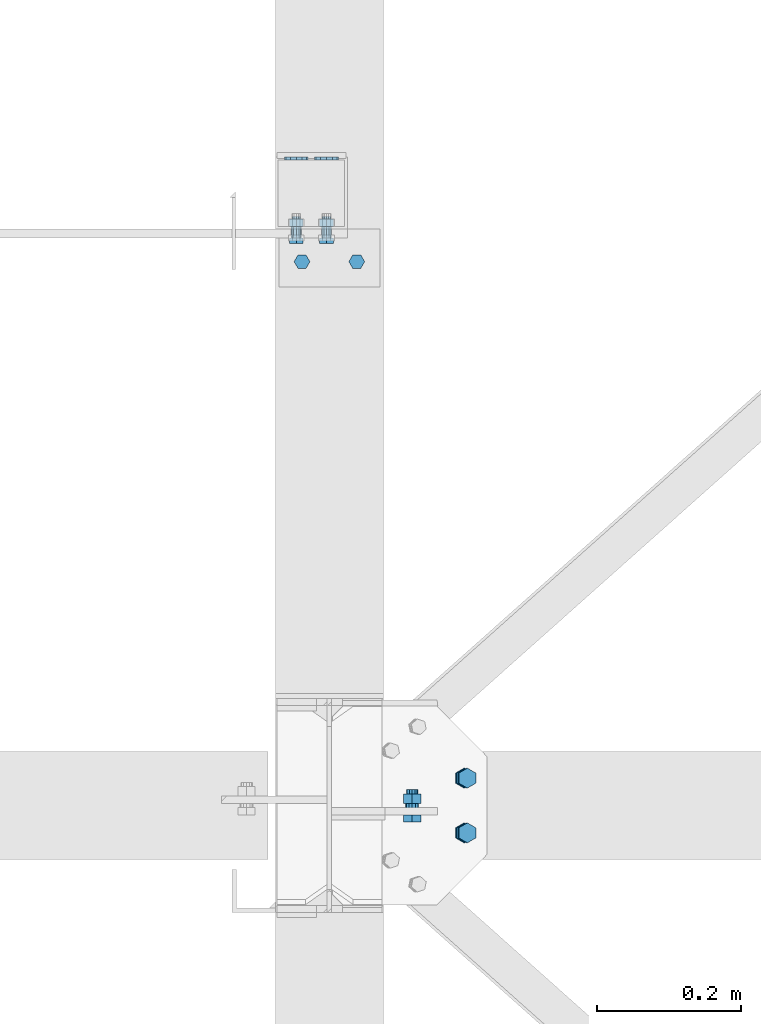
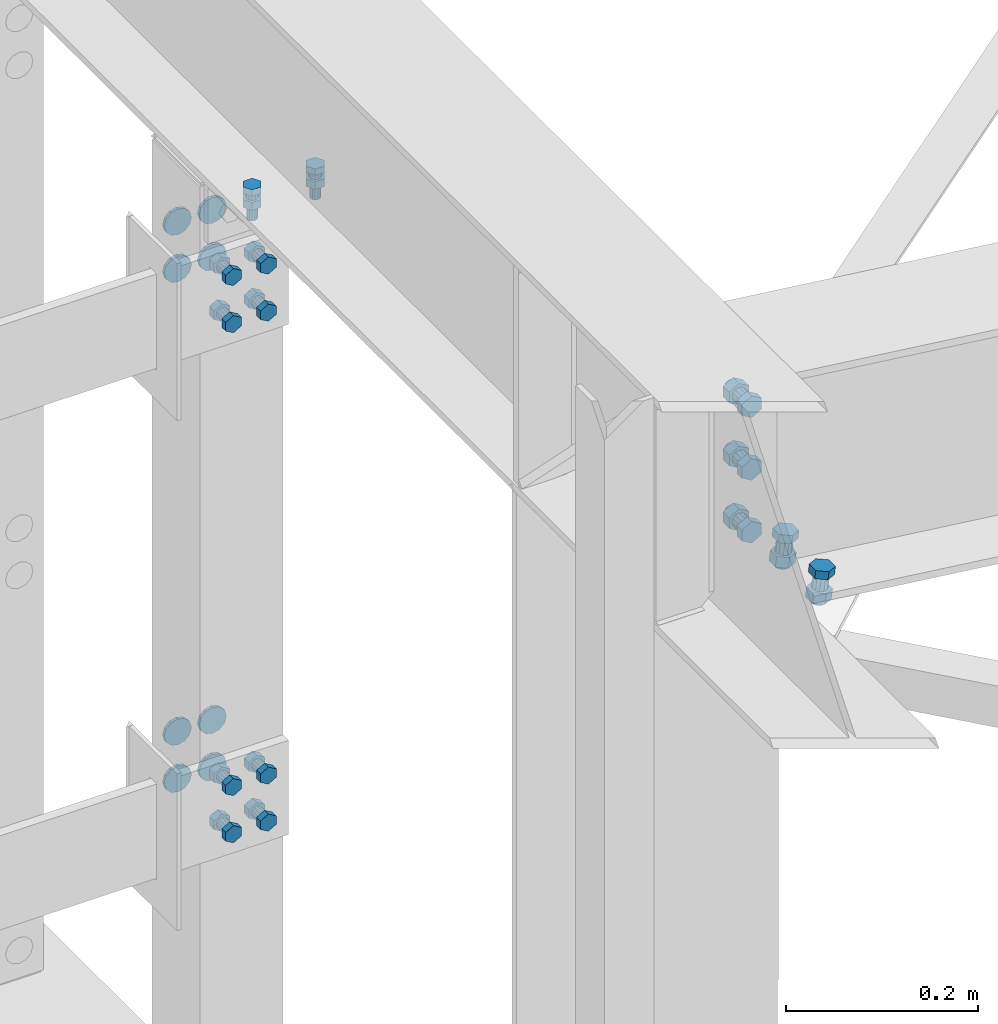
# One storey, part 140 of 3134: 7 mechanical fasteners, 3 elements without a shape of their own.
"""IFC2X3 building model written with IfcOpenShell, lengths in millimetres."""

from ifc_helpers import new_model, si_unit, frame, origin_with_axes, place, context, subcontext, project, spatial, faceted_brep, source, transform, mapped, material, type_object, element, aggregate, save


model = new_model("IFC2X3")

# Units and contexts
model_context = context("Model", 3, precision=1e-05, world=origin_with_axes())
body_context = subcontext(model_context, "Body", "Model", "MODEL_VIEW")
ifc_project = project(units=[si_unit("LENGTHUNIT", "METRE", prefix="MILLI"), si_unit("AREAUNIT", "SQUARE_METRE"), si_unit("VOLUMEUNIT", "CUBIC_METRE"), si_unit("MASSUNIT", "GRAM", prefix="KILO"), si_unit("TIMEUNIT", "SECOND"), si_unit("PLANEANGLEUNIT", "RADIAN"), si_unit("SOLIDANGLEUNIT", "STERADIAN"), si_unit("THERMODYNAMICTEMPERATUREUNIT", "DEGREE_CELSIUS"), si_unit("LUMINOUSINTENSITYUNIT", "LUMEN")], contexts=[model_context])

# Site, building, storey
site_placement = place(None, origin_with_axes())
site = spatial("IfcSite", under=ifc_project, at=site_placement, CompositionType="ELEMENT")
building_placement = place(site_placement, origin_with_axes())
building = spatial("IfcBuilding", under=site, at=building_placement, Name="Undefined", CompositionType="ELEMENT")
storey_placement = place(building_placement, origin_with_axes())
storey = spatial("IfcBuildingStorey", under=building, at=storey_placement, Name="Undefined", CompositionType="ELEMENT", Elevation=0.0)

# Assembly, mechanical fastener
assembly_1_placement = place(storey_placement, origin_with_axes())
assembly_1 = element("IfcElementAssembly", 1, at=assembly_1_placement, inside=storey, AssemblyPlace="NOTDEFINED", PredefinedType="RIGID_FRAME")
ifc_material = material(Name="8.8")
mechanical_fastener_type = type_object("IfcMechanicalFastenerType", Name="Bolt assembly")
shared_shape_1 = source(origin_with_axes(), body_context, "Body", "Brep", [
    faceted_brep([(10.9696551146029, -8.0, 0.0), (5.48482755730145, -8.0, 9.5), (-5.48482755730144, -8.0, 9.5), (-10.9696551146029, -8.0, 1.34339530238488e-15), (-5.48482755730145, -8.0, -9.5), (5.48482755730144, -8.0, -9.50000000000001), (5.48482755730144, 0.0, -9.50000000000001), (-5.48482755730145, 0.0, -9.5), (-10.9696551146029, 0.0, 1.34339530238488e-15), (-5.48482755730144, 0.0, 9.5), (5.48482755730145, 0.0, 9.5), (10.9696551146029, 0.0, 0.0), (6.0, 0.0, 0.0), (5.19615242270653, 0.0, 3.00000000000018), (2.99999999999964, 0.0, 5.19615242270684), (-6.21801588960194e-13, 0.0, 6.0), (-3.00000000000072, 0.0, 5.19615242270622), (-5.19615242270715, 0.0, 2.9999999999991), (-6.0, 0.0, -1.24360317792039e-12), (-5.19615242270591, 0.0, -3.00000000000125), (-2.99999999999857, 0.0, -5.19615242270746), (1.85874342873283e-12, 0.0, -6.0), (3.00000000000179, 0.0, -5.1961524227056), (5.19615242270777, 0.0, -2.99999999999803), (5.19615242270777, 35.0, -2.99999999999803), (3.00000000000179, 35.0, -5.1961524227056), (1.85874342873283e-12, 35.0, -6.0), (-2.99999999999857, 35.0, -5.19615242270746), (-5.19615242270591, 35.0, -3.00000000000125), (-6.0, 35.0, -1.24360317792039e-12), (-5.19615242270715, 35.0, 2.9999999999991), (-3.00000000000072, 35.0, 5.19615242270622), (-6.21801588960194e-13, 35.0, 6.0), (2.99999999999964, 35.0, 5.19615242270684), (5.19615242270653, 35.0, 3.00000000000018), (6.0, 35.0, 0.0), (10.9696551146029, 8.0, 0.0), (5.48482755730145, 8.0, 9.5), (-5.48482755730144, 8.0, 9.5), (-10.9696551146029, 8.0, 1.34339530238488e-15), (-5.48482755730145, 8.0, -9.5), (5.48482755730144, 8.0, -9.50000000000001), (5.48482755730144, 18.0, -9.50000000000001), (-5.48482755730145, 18.0, -9.5), (-10.9696551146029, 18.0, 1.34339530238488e-15), (-5.48482755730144, 18.0, 9.5), (5.48482755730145, 18.0, 9.5), (10.9696551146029, 18.0, 0.0)], [[[0, 1, 2, 3, 4, 5]], [[6, 7, 8, 9, 10, 11]], [[0, 11, 10, 1]], [[1, 10, 9, 2]], [[2, 9, 8, 3]], [[3, 8, 7, 4]], [[4, 7, 6, 5]], [[5, 6, 11, 0]], [[12, 13, 14, 15, 16, 17, 18, 19, 20, 21, 22, 23]], [[24, 25, 26, 27, 28, 29, 30, 31, 32, 33, 34, 35]], [[12, 35, 34, 13]], [[13, 34, 33, 14]], [[14, 33, 32, 15]], [[15, 32, 31, 16]], [[16, 31, 30, 17]], [[17, 30, 29, 18]], [[18, 29, 28, 19]], [[19, 28, 27, 20]], [[20, 27, 26, 21]], [[21, 26, 25, 22]], [[22, 25, 24, 23]], [[23, 24, 35, 12]], [[36, 37, 38, 39, 40, 41]], [[42, 43, 44, 45, 46, 47]], [[36, 47, 46, 37]], [[37, 46, 45, 38]], [[38, 45, 44, 39]], [[39, 44, 43, 40]], [[40, 43, 42, 41]], [[41, 42, 47, 36]]]),
    faceted_brep([(7.0, 0.0, 0.0), (6.06217782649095, 0.0, 3.50000000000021), (3.49999999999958, 0.0, 6.06217782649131), (-7.25435187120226e-13, 0.0, 7.0), (-3.50000000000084, 0.0, 6.06217782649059), (-6.06217782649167, 0.0, 3.49999999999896), (-7.0, 0.0, -1.45087037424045e-12), (-6.06217782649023, 0.0, -3.50000000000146), (-3.49999999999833, 0.0, -6.06217782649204), (2.1685340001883e-12, 0.0, -7.0), (3.50000000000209, 0.0, -6.06217782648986), (6.0621778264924, 0.0, -3.4999999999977), (6.0621778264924, 8.1, -3.4999999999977), (3.50000000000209, 8.1, -6.06217782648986), (2.1685340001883e-12, 8.1, -7.0), (-3.49999999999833, 8.1, -6.06217782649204), (-6.06217782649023, 8.1, -3.50000000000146), (-7.0, 8.1, -1.45087037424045e-12), (-6.06217782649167, 8.1, 3.49999999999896), (-3.50000000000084, 8.1, 6.06217782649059), (-7.25435187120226e-13, 8.1, 7.0), (3.49999999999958, 8.1, 6.06217782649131), (6.06217782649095, 8.1, 3.50000000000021), (7.0, 8.1, 0.0)], [[[0, 1, 2, 3, 4, 5, 6, 7, 8, 9, 10, 11]], [[12, 13, 14, 15, 16, 17, 18, 19, 20, 21, 22, 23]], [[0, 23, 22, 1]], [[1, 22, 21, 2]], [[2, 21, 20, 3]], [[3, 20, 19, 4]], [[4, 19, 18, 5]], [[5, 18, 17, 6]], [[6, 17, 16, 7]], [[7, 16, 15, 8]], [[8, 15, 14, 9]], [[9, 14, 13, 10]], [[10, 13, 12, 11]], [[11, 12, 23, 0]]]),
])
mechanical_fastener_1_placement = place(assembly_1_placement, frame((32487.0, 25405.0, 5593.0), z_axis=(0.0, 1.0, 0.0), x_axis=(1.0, 0.0, 0.0)))
mechanical_fastener_1 = element("IfcMechanicalFastener", 2, at=mechanical_fastener_1_placement, type_object=mechanical_fastener_type, material=ifc_material, Name="Bolt assembly", NominalDiameter=12.0, NominalLength=35.0, context=body_context, shape_type="MappedRepresentation", body=[
    mapped(shared_shape_1, transform((0.0, 0.0, 0.0))),
    mapped(shared_shape_1, transform((76.0, 0.0, 0.0))),
])
aggregate(assembly_1, [mechanical_fastener_1])

# Assembly, mechanical fasteners
assembly_2_placement = place(storey_placement, origin_with_axes())
assembly_2 = element("IfcElementAssembly", 3, at=assembly_2_placement, inside=storey, AssemblyPlace="NOTDEFINED", PredefinedType="RIGID_FRAME")
shared_shape_2 = source(origin_with_axes(), body_context, "Body", "Brep", [
    faceted_brep([(16.5, -4.0, 0.0), (14.289419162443, -4.0, 8.25000000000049), (8.24999999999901, -4.0, 14.2894191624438), (-1.70995436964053e-12, -4.0, 16.5), (-8.25000000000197, -4.0, 14.2894191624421), (-14.2894191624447, -4.0, 8.24999999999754), (-16.5, -4.0, -3.41990873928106e-12), (-14.2894191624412, -4.0, -8.25000000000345), (-8.24999999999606, -4.0, -14.2894191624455), (5.11154442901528e-12, -4.0, -16.5), (8.25000000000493, -4.0, -14.2894191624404), (14.2894191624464, -4.0, -8.24999999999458), (14.2894191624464, 0.1, -8.24999999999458), (8.25000000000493, 0.1, -14.2894191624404), (5.11154442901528e-12, 0.1, -16.5), (-8.24999999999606, 0.1, -14.2894191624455), (-14.2894191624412, 0.1, -8.25000000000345), (-16.5, 0.1, -3.41990873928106e-12), (-14.2894191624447, 0.1, 8.24999999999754), (-8.25000000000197, 0.1, 14.2894191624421), (-1.70995436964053e-12, 0.1, 16.5), (8.24999999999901, 0.1, 14.2894191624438), (14.289419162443, 0.1, 8.25000000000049), (16.5, 0.1, 0.0)], [[[0, 1, 2, 3, 4, 5, 6, 7, 8, 9, 10, 11]], [[12, 13, 14, 15, 16, 17, 18, 19, 20, 21, 22, 23]], [[0, 23, 22, 1]], [[1, 22, 21, 2]], [[2, 21, 20, 3]], [[3, 20, 19, 4]], [[4, 19, 18, 5]], [[5, 18, 17, 6]], [[6, 17, 16, 7]], [[7, 16, 15, 8]], [[8, 15, 14, 9]], [[9, 14, 13, 10]], [[10, 13, 12, 11]], [[11, 12, 23, 0]]]),
])
mechanical_fastener_2_placement = place(assembly_2_placement, frame((32500.0, 25550.0, 5470.0), z_axis=(1.0, 0.0, 0.0), x_axis=(0.0, 0.0, -1.0)))
mechanical_fastener_2 = element("IfcMechanicalFastener", 4, at=mechanical_fastener_2_placement, type_object=mechanical_fastener_type, material=ifc_material, Name="Bolt assembly", NominalDiameter=30.0, NominalLength=4.0, context=body_context, shape_type="MappedRepresentation", body=[
    mapped(shared_shape_2, transform((0.0, 0.0, -21.0))),
    mapped(shared_shape_2, transform((60.0, 0.0, -21.0))),
    mapped(shared_shape_2, transform((0.0, 0.0, 21.0))),
    mapped(shared_shape_2, transform((60.0, 0.0, 21.0))),
])
mechanical_fastener_3_placement = place(assembly_2_placement, frame((32500.0, 25550.0, 4820.0), z_axis=(1.0, 0.0, 0.0), x_axis=(0.0, 0.0, -1.0)))
mechanical_fastener_3 = element("IfcMechanicalFastener", 5, at=mechanical_fastener_3_placement, type_object=mechanical_fastener_type, material=ifc_material, Name="Bolt assembly", NominalDiameter=30.0, NominalLength=4.0, context=body_context, shape_type="MappedRepresentation", body=[
    mapped(shared_shape_2, transform((0.0, 0.0, -21.0))),
    mapped(shared_shape_2, transform((60.0, 0.0, -21.0))),
    mapped(shared_shape_2, transform((0.0, 0.0, 21.0))),
    mapped(shared_shape_2, transform((60.0, 0.0, 21.0))),
])
shared_shape_3 = source(origin_with_axes(), body_context, "Body", "Brep", [
    faceted_brep([(10.9696551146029, -20.0, 0.0), (5.48482755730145, -20.0, 9.5), (-5.48482755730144, -20.0, 9.5), (-10.9696551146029, -20.0, 1.34339530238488e-15), (-5.48482755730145, -20.0, -9.5), (5.48482755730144, -20.0, -9.50000000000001), (5.48482755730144, -12.0, -9.50000000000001), (-5.48482755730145, -12.0, -9.5), (-10.9696551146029, -12.0, 1.34339530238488e-15), (-5.48482755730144, -12.0, 9.5), (5.48482755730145, -12.0, 9.5), (10.9696551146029, -12.0, 0.0), (6.0, -12.0, 0.0), (5.19615242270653, -12.0, 3.00000000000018), (2.99999999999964, -12.0, 5.19615242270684), (-6.21801588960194e-13, -12.0, 6.0), (-3.00000000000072, -12.0, 5.19615242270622), (-5.19615242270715, -12.0, 2.9999999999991), (-6.0, -12.0, -1.24360317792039e-12), (-5.19615242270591, -12.0, -3.00000000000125), (-2.99999999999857, -12.0, -5.19615242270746), (1.85874342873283e-12, -12.0, -6.0), (3.00000000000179, -12.0, -5.1961524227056), (5.19615242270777, -12.0, -2.99999999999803), (5.19615242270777, 18.0, -2.99999999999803), (3.00000000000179, 18.0, -5.1961524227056), (1.85874342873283e-12, 18.0, -6.0), (-2.99999999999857, 18.0, -5.19615242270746), (-5.19615242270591, 18.0, -3.00000000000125), (-6.0, 18.0, -1.24360317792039e-12), (-5.19615242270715, 18.0, 2.9999999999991), (-3.00000000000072, 18.0, 5.19615242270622), (-6.21801588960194e-13, 18.0, 6.0), (2.99999999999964, 18.0, 5.19615242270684), (5.19615242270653, 18.0, 3.00000000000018), (6.0, 18.0, 0.0), (10.9696551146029, 4.00000000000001, 0.0), (5.48482755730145, 4.00000000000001, 9.5), (-5.48482755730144, 4.00000000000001, 9.5), (-10.9696551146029, 4.00000000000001, 1.34339530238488e-15), (-5.48482755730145, 4.00000000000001, -9.5), (5.48482755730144, 4.00000000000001, -9.50000000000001), (5.48482755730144, 14.0, -9.50000000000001), (-5.48482755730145, 14.0, -9.5), (-10.9696551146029, 14.0, 1.34339530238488e-15), (-5.48482755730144, 14.0, 9.5), (5.48482755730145, 14.0, 9.5), (10.9696551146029, 14.0, 0.0)], [[[0, 1, 2, 3, 4, 5]], [[6, 7, 8, 9, 10, 11]], [[0, 11, 10, 1]], [[1, 10, 9, 2]], [[2, 9, 8, 3]], [[3, 8, 7, 4]], [[4, 7, 6, 5]], [[5, 6, 11, 0]], [[12, 13, 14, 15, 16, 17, 18, 19, 20, 21, 22, 23]], [[24, 25, 26, 27, 28, 29, 30, 31, 32, 33, 34, 35]], [[12, 35, 34, 13]], [[13, 34, 33, 14]], [[14, 33, 32, 15]], [[15, 32, 31, 16]], [[16, 31, 30, 17]], [[17, 30, 29, 18]], [[18, 29, 28, 19]], [[19, 28, 27, 20]], [[20, 27, 26, 21]], [[21, 26, 25, 22]], [[22, 25, 24, 23]], [[23, 24, 35, 12]], [[36, 37, 38, 39, 40, 41]], [[42, 43, 44, 45, 46, 47]], [[36, 47, 46, 37]], [[37, 46, 45, 38]], [[38, 45, 44, 39]], [[39, 44, 43, 40]], [[40, 43, 42, 41]], [[41, 42, 47, 36]]]),
    faceted_brep([(7.0, -11.9, 0.0), (6.06217782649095, -11.9, 3.50000000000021), (3.49999999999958, -11.9, 6.06217782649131), (-7.25435187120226e-13, -11.9, 7.0), (-3.50000000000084, -11.9, 6.06217782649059), (-6.06217782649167, -11.9, 3.49999999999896), (-7.0, -11.9, -1.45087037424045e-12), (-6.06217782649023, -11.9, -3.50000000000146), (-3.49999999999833, -11.9, -6.06217782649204), (2.1685340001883e-12, -11.9, -7.0), (3.50000000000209, -11.9, -6.06217782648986), (6.0621778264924, -11.9, -3.4999999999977), (6.0621778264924, 0.0999999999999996, -3.4999999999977), (3.50000000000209, 0.0999999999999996, -6.06217782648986), (2.1685340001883e-12, 0.0999999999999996, -7.0), (-3.49999999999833, 0.0999999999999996, -6.06217782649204), (-6.06217782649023, 0.0999999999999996, -3.50000000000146), (-7.0, 0.0999999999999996, -1.45087037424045e-12), (-6.06217782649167, 0.0999999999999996, 3.49999999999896), (-3.50000000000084, 0.0999999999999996, 6.06217782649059), (-7.25435187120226e-13, 0.0999999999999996, 7.0), (3.49999999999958, 0.0999999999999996, 6.06217782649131), (6.06217782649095, 0.0999999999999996, 3.50000000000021), (7.0, 0.0999999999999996, 0.0), (7.0, -0.1, 0.0), (6.06217782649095, -0.1, 3.50000000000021), (3.49999999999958, -0.1, 6.06217782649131), (-7.25435187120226e-13, -0.1, 7.0), (-3.50000000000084, -0.1, 6.06217782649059), (-6.06217782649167, -0.1, 3.49999999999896), (-7.0, -0.1, -1.45087037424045e-12), (-6.06217782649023, -0.1, -3.50000000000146), (-3.49999999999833, -0.1, -6.06217782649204), (2.1685340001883e-12, -0.1, -7.0), (3.50000000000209, -0.1, -6.06217782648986), (6.0621778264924, -0.1, -3.4999999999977), (6.0621778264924, 4.00000000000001, -3.4999999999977), (3.50000000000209, 4.00000000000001, -6.06217782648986), (2.1685340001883e-12, 4.00000000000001, -7.0), (-3.49999999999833, 4.00000000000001, -6.06217782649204), (-6.06217782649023, 4.00000000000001, -3.50000000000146), (-7.0, 4.00000000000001, -1.45087037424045e-12), (-6.06217782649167, 4.00000000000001, 3.49999999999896), (-3.50000000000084, 4.00000000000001, 6.06217782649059), (-7.25435187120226e-13, 4.00000000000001, 7.0), (3.49999999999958, 4.00000000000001, 6.06217782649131), (6.06217782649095, 4.00000000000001, 3.50000000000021), (7.0, 4.00000000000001, 0.0)], [[[0, 1, 2, 3, 4, 5, 6, 7, 8, 9, 10, 11]], [[12, 13, 14, 15, 16, 17, 18, 19, 20, 21, 22, 23]], [[0, 23, 22, 1]], [[1, 22, 21, 2]], [[2, 21, 20, 3]], [[3, 20, 19, 4]], [[4, 19, 18, 5]], [[5, 18, 17, 6]], [[6, 17, 16, 7]], [[7, 16, 15, 8]], [[8, 15, 14, 9]], [[9, 14, 13, 10]], [[10, 13, 12, 11]], [[11, 12, 23, 0]], [[24, 25, 26, 27, 28, 29, 30, 31, 32, 33, 34, 35]], [[36, 37, 38, 39, 40, 41, 42, 43, 44, 45, 46, 47]], [[24, 47, 46, 25]], [[25, 46, 45, 26]], [[26, 45, 44, 27]], [[27, 44, 43, 28]], [[28, 43, 42, 29]], [[29, 42, 41, 30]], [[30, 41, 40, 31]], [[31, 40, 39, 32]], [[32, 39, 38, 33]], [[33, 38, 37, 34]], [[34, 37, 36, 35]], [[35, 36, 47, 24]]]),
])
mechanical_fastener_4_placement = place(assembly_2_placement, frame((32500.0, 25450.0, 5470.0), z_axis=(1.0, 0.0, 0.0), x_axis=(0.0, 0.0, -1.0)))
mechanical_fastener_4 = element("IfcMechanicalFastener", 6, at=mechanical_fastener_4_placement, type_object=mechanical_fastener_type, material=ifc_material, Name="Bolt assembly", NominalDiameter=12.0, NominalLength=30.0, context=body_context, shape_type="MappedRepresentation", body=[
    mapped(shared_shape_3, transform((0.0, 0.0, -21.0))),
    mapped(shared_shape_3, transform((60.0, 0.0, -21.0))),
    mapped(shared_shape_3, transform((0.0, 0.0, 21.0))),
    mapped(shared_shape_3, transform((60.0, 0.0, 21.0))),
])
mechanical_fastener_5_placement = place(assembly_2_placement, frame((32500.0, 25450.0, 4820.0), z_axis=(1.0, 0.0, 0.0), x_axis=(0.0, 0.0, -1.0)))
mechanical_fastener_5 = element("IfcMechanicalFastener", 7, at=mechanical_fastener_5_placement, type_object=mechanical_fastener_type, material=ifc_material, Name="Bolt assembly", NominalDiameter=12.0, NominalLength=30.0, context=body_context, shape_type="MappedRepresentation", body=[
    mapped(shared_shape_3, transform((0.0, 0.0, -21.0))),
    mapped(shared_shape_3, transform((60.0, 0.0, -21.0))),
    mapped(shared_shape_3, transform((0.0, 0.0, 21.0))),
    mapped(shared_shape_3, transform((60.0, 0.0, 21.0))),
])
aggregate(assembly_2, [mechanical_fastener_2, mechanical_fastener_3, mechanical_fastener_4, mechanical_fastener_5])

assembly_3_placement = place(storey_placement, origin_with_axes())
assembly_3 = element("IfcElementAssembly", 8, at=assembly_3_placement, inside=storey, Name="300", AssemblyPlace="NOTDEFINED", PredefinedType="RIGID_FRAME")
shared_shape_4 = source(origin_with_axes(), body_context, "Body", "Brep", [
    faceted_brep([(13.856406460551, -19.199990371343, 0.0), (6.92820323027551, -19.199990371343, 12.0), (-6.92820323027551, -19.199990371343, 12.0), (-13.856406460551, -19.199990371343, 1.69692038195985e-15), (-6.92820323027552, -19.199990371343, -12.0), (6.9282032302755, -19.199990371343, -12.0), (6.9282032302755, -9.19999037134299, -12.0), (-6.92820323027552, -9.19999037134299, -12.0), (-13.856406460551, -9.19999037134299, 1.69692038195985e-15), (-6.92820323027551, -9.19999037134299, 12.0), (6.92820323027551, -9.19999037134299, 12.0), (13.856406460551, -9.19999037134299, 0.0), (8.0, -9.19999037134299, 0.0), (6.92820323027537, -9.19999037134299, 4.00000000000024), (3.99999999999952, -9.19999037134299, 6.92820323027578), (-8.29068785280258e-13, -9.19999037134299, 8.0), (-4.00000000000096, -9.19999037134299, 6.92820323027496), (-6.9282032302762, -9.19999037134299, 3.99999999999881), (-8.0, -9.19999037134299, -1.65813757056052e-12), (-6.92820323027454, -9.19999037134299, -4.00000000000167), (-3.99999999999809, -9.19999037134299, -6.92820323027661), (2.47832457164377e-12, -9.19999037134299, -8.0), (4.00000000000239, -9.19999037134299, -6.92820323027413), (6.92820323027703, -9.19999037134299, -3.99999999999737), (6.92820323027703, 25.800009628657, -3.99999999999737), (4.00000000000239, 25.800009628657, -6.92820323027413), (2.47832457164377e-12, 25.800009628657, -8.0), (-3.99999999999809, 25.800009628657, -6.92820323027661), (-6.92820323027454, 25.800009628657, -4.00000000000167), (-8.0, 25.800009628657, -1.65813757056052e-12), (-6.9282032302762, 25.800009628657, 3.99999999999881), (-4.00000000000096, 25.800009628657, 6.92820323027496), (-8.29068785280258e-13, 25.800009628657, 8.0), (3.99999999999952, 25.800009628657, 6.92820323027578), (6.92820323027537, 25.800009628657, 4.00000000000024), (8.0, 25.800009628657, 0.0), (13.856406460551, 8.00000637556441, 0.0), (6.92820323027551, 8.00000637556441, 12.0), (-6.92820323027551, 8.00000637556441, 12.0), (-13.856406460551, 8.00000637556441, 1.69692038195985e-15), (-6.92820323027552, 8.00000637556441, -12.0), (6.9282032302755, 8.00000637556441, -12.0), (6.9282032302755, 21.0000063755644, -12.0), (-6.92820323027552, 21.0000063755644, -12.0), (-13.856406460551, 21.0000063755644, 1.69692038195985e-15), (-6.92820323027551, 21.0000063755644, 12.0), (6.92820323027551, 21.0000063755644, 12.0), (13.856406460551, 21.0000063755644, 0.0)], [[[0, 1, 2, 3, 4, 5]], [[6, 7, 8, 9, 10, 11]], [[0, 11, 10, 1]], [[1, 10, 9, 2]], [[2, 9, 8, 3]], [[3, 8, 7, 4]], [[4, 7, 6, 5]], [[5, 6, 11, 0]], [[12, 13, 14, 15, 16, 17, 18, 19, 20, 21, 22, 23]], [[24, 25, 26, 27, 28, 29, 30, 31, 32, 33, 34, 35]], [[12, 35, 34, 13]], [[13, 34, 33, 14]], [[14, 33, 32, 15]], [[15, 32, 31, 16]], [[16, 31, 30, 17]], [[17, 30, 29, 18]], [[18, 29, 28, 19]], [[19, 28, 27, 20]], [[20, 27, 26, 21]], [[21, 26, 25, 22]], [[22, 25, 24, 23]], [[23, 24, 35, 12]], [[36, 37, 38, 39, 40, 41]], [[42, 43, 44, 45, 46, 47]], [[36, 47, 46, 37]], [[37, 46, 45, 38]], [[38, 45, 44, 39]], [[39, 44, 43, 40]], [[40, 43, 42, 41]], [[41, 42, 47, 36]]]),
    faceted_brep([(9.0, -0.1, 0.0), (7.79422863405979, -0.1, 4.50000000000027), (4.49999999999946, -0.1, 7.79422863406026), (-9.3270238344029e-13, -0.1, 9.0), (-4.50000000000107, -0.1, 7.79422863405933), (-7.79422863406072, -0.1, 4.49999999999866), (-9.0, -0.1, -1.86540476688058e-12), (-7.79422863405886, -0.1, -4.50000000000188), (-4.49999999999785, -0.1, -7.79422863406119), (2.78811514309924e-12, -0.1, -9.0), (4.50000000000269, -0.1, -7.7942286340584), (7.79422863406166, -0.1, -4.49999999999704), (7.79422863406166, 8.00000000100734, -4.49999999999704), (4.50000000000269, 8.00000000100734, -7.7942286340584), (2.78811514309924e-12, 8.00000000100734, -9.0), (-4.49999999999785, 8.00000000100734, -7.79422863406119), (-7.79422863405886, 8.00000000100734, -4.50000000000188), (-9.0, 8.00000000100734, -1.86540476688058e-12), (-7.79422863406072, 8.00000000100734, 4.49999999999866), (-4.50000000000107, 8.00000000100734, 7.79422863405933), (-9.3270238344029e-13, 8.00000000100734, 9.0), (4.49999999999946, 8.00000000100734, 7.79422863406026), (7.79422863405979, 8.00000000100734, 4.50000000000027), (9.0, 8.00000000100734, 0.0), (9.0, -9.09999037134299, 0.0), (7.79422863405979, -9.09999037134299, 4.50000000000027), (4.49999999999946, -9.09999037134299, 7.79422863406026), (-9.3270238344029e-13, -9.09999037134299, 9.0), (-4.50000000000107, -9.09999037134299, 7.79422863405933), (-7.79422863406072, -9.09999037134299, 4.49999999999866), (-9.0, -9.09999037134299, -1.86540476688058e-12), (-7.79422863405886, -9.09999037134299, -4.50000000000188), (-4.49999999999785, -9.09999037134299, -7.79422863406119), (2.78811514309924e-12, -9.09999037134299, -9.0), (4.50000000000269, -9.09999037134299, -7.7942286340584), (7.79422863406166, -9.09999037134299, -4.49999999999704), (7.79422863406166, 0.100000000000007, -4.49999999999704), (4.50000000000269, 0.100000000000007, -7.7942286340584), (2.78811514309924e-12, 0.100000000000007, -9.0), (-4.49999999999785, 0.100000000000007, -7.79422863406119), (-7.79422863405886, 0.100000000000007, -4.50000000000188), (-9.0, 0.100000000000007, -1.86540476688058e-12), (-7.79422863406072, 0.100000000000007, 4.49999999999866), (-4.50000000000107, 0.100000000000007, 7.79422863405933), (-9.3270238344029e-13, 0.100000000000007, 9.0), (4.49999999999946, 0.100000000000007, 7.79422863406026), (7.79422863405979, 0.100000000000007, 4.50000000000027), (9.0, 0.100000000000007, 0.0)], [[[0, 1, 2, 3, 4, 5, 6, 7, 8, 9, 10, 11]], [[12, 13, 14, 15, 16, 17, 18, 19, 20, 21, 22, 23]], [[0, 23, 22, 1]], [[1, 22, 21, 2]], [[2, 21, 20, 3]], [[3, 20, 19, 4]], [[4, 19, 18, 5]], [[5, 18, 17, 6]], [[6, 17, 16, 7]], [[7, 16, 15, 8]], [[8, 15, 14, 9]], [[9, 14, 13, 10]], [[10, 13, 12, 11]], [[11, 12, 23, 0]], [[24, 25, 26, 27, 28, 29, 30, 31, 32, 33, 34, 35]], [[36, 37, 38, 39, 40, 41, 42, 43, 44, 45, 46, 47]], [[24, 47, 46, 25]], [[25, 46, 45, 26]], [[26, 45, 44, 27]], [[27, 44, 43, 28]], [[28, 43, 42, 29]], [[29, 42, 41, 30]], [[30, 41, 40, 31]], [[31, 40, 39, 32]], [[32, 39, 38, 33]], [[33, 38, 37, 34]], [[34, 37, 36, 35]], [[35, 36, 47, 24]]]),
])
mechanical_fastener_6_placement = place(assembly_3_placement, frame((32714.2248161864, 24687.9995130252, 5496.68063426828), z_axis=(0.992623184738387, 1.63108538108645e-05, -0.12124031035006), x_axis=(1.62000016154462e-05, -0.999999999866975, -1.90000018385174e-06)))
mechanical_fastener_6 = element("IfcMechanicalFastener", 9, at=mechanical_fastener_6_placement, type_object=mechanical_fastener_type, material=ifc_material, Name="Bolt assembly", NominalDiameter=16.0, NominalLength=35.0, context=body_context, shape_type="MappedRepresentation", body=[
    mapped(shared_shape_4, transform((0.0, 0.0, 0.0))),
    mapped(shared_shape_4, transform((76.0, 0.0, 0.0))),
])
shared_shape_5 = source(origin_with_axes(), body_context, "Body", "Brep", [
    faceted_brep([(13.856406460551, -23.0499999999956, 0.0), (6.92820323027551, -23.0499999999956, 12.0), (-6.92820323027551, -23.0499999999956, 12.0), (-13.856406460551, -23.0499999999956, 1.69692038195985e-15), (-6.92820323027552, -23.0499999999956, -12.0), (6.9282032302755, -23.0499999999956, -12.0), (6.9282032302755, -13.0499999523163, -12.0), (-6.92820323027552, -13.0499999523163, -12.0), (-13.856406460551, -13.0499999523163, 1.69692038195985e-15), (-6.92820323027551, -13.0499999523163, 12.0), (6.92820323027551, -13.0499999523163, 12.0), (13.856406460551, -13.0499999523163, 0.0), (8.0, -13.0499999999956, 0.0), (6.92820323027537, -13.0499999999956, 4.00000000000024), (3.99999999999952, -13.0499999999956, 6.92820323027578), (-8.29068785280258e-13, -13.0499999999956, 8.0), (-4.00000000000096, -13.0499999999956, 6.92820323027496), (-6.9282032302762, -13.0499999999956, 3.99999999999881), (-8.0, -13.0499999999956, -1.65813757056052e-12), (-6.92820323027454, -13.0499999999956, -4.00000000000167), (-3.99999999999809, -13.0499999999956, -6.92820323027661), (2.47832457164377e-12, -13.0499999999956, -8.0), (4.00000000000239, -13.0499999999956, -6.92820323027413), (6.92820323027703, -13.0499999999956, -3.99999999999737), (6.92820323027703, 21.9500000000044, -3.99999999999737), (4.00000000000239, 21.9500000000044, -6.92820323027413), (2.47832457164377e-12, 21.9500000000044, -8.0), (-3.99999999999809, 21.9500000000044, -6.92820323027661), (-6.92820323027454, 21.9500000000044, -4.00000000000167), (-8.0, 21.9500000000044, -1.65813757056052e-12), (-6.9282032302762, 21.9500000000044, 3.99999999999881), (-4.00000000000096, 21.9500000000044, 6.92820323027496), (-8.29068785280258e-13, 21.9500000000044, 8.0), (3.99999999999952, 21.9500000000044, 6.92820323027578), (6.92820323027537, 21.9500000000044, 4.00000000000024), (8.0, 21.9500000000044, 0.0), (13.856406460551, 3.04999995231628, 0.0), (6.92820323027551, 3.04999995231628, 12.0), (-6.92820323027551, 3.04999995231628, 12.0), (-13.856406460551, 3.04999995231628, 1.69692038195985e-15), (-6.92820323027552, 3.04999995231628, -12.0), (6.9282032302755, 3.04999995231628, -12.0), (6.9282032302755, 16.0499999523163, -12.0), (-6.92820323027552, 16.0499999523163, -12.0), (-13.856406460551, 16.0499999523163, 1.69692038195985e-15), (-6.92820323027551, 16.0499999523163, 12.0), (6.92820323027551, 16.0499999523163, 12.0), (13.856406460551, 16.0499999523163, 0.0)], [[[0, 1, 2, 3, 4, 5]], [[6, 7, 8, 9, 10, 11]], [[0, 11, 10, 1]], [[1, 10, 9, 2]], [[2, 9, 8, 3]], [[3, 8, 7, 4]], [[4, 7, 6, 5]], [[5, 6, 11, 0]], [[12, 13, 14, 15, 16, 17, 18, 19, 20, 21, 22, 23]], [[24, 25, 26, 27, 28, 29, 30, 31, 32, 33, 34, 35]], [[12, 35, 34, 13]], [[13, 34, 33, 14]], [[14, 33, 32, 15]], [[15, 32, 31, 16]], [[16, 31, 30, 17]], [[17, 30, 29, 18]], [[18, 29, 28, 19]], [[19, 28, 27, 20]], [[20, 27, 26, 21]], [[21, 26, 25, 22]], [[22, 25, 24, 23]], [[23, 24, 35, 12]], [[36, 37, 38, 39, 40, 41]], [[42, 43, 44, 45, 46, 47]], [[36, 47, 46, 37]], [[37, 46, 45, 38]], [[38, 45, 44, 39]], [[39, 44, 43, 40]], [[40, 43, 42, 41]], [[41, 42, 47, 36]]]),
    faceted_brep([(9.0, -12.9499999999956, 0.0), (7.79422863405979, -12.9499999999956, 4.50000000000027), (4.49999999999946, -12.9499999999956, 7.79422863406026), (-9.3270238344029e-13, -12.9499999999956, 9.0), (-4.50000000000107, -12.9499999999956, 7.79422863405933), (-7.79422863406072, -12.9499999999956, 4.49999999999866), (-9.0, -12.9499999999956, -1.86540476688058e-12), (-7.79422863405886, -12.9499999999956, -4.50000000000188), (-4.49999999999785, -12.9499999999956, -7.79422863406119), (2.78811514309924e-12, -12.9499999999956, -9.0), (4.50000000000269, -12.9499999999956, -7.7942286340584), (7.79422863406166, -12.9499999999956, -4.49999999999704), (7.79422863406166, -2.94999995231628, -4.49999999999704), (4.50000000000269, -2.94999995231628, -7.7942286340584), (2.78811514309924e-12, -2.94999995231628, -9.0), (-4.49999999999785, -2.94999995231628, -7.79422863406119), (-7.79422863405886, -2.94999995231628, -4.50000000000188), (-9.0, -2.94999995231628, -1.86540476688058e-12), (-7.79422863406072, -2.94999995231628, 4.49999999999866), (-4.50000000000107, -2.94999995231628, 7.79422863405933), (-9.3270238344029e-13, -2.94999995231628, 9.0), (4.49999999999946, -2.94999995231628, 7.79422863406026), (7.79422863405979, -2.94999995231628, 4.50000000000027), (9.0, -2.94999995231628, 0.0), (9.0, -3.14999995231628, 0.0), (7.79422863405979, -3.14999995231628, 4.50000000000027), (4.49999999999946, -3.14999995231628, 7.79422863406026), (-9.3270238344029e-13, -3.14999995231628, 9.0), (-4.50000000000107, -3.14999995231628, 7.79422863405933), (-7.79422863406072, -3.14999995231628, 4.49999999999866), (-9.0, -3.14999995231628, -1.86540476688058e-12), (-7.79422863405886, -3.14999995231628, -4.50000000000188), (-4.49999999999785, -3.14999995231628, -7.79422863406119), (2.78811514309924e-12, -3.14999995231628, -9.0), (4.50000000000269, -3.14999995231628, -7.7942286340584), (7.79422863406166, -3.14999995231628, -4.49999999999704), (7.79422863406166, 3.04999995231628, -4.49999999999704), (4.50000000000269, 3.04999995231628, -7.7942286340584), (2.78811514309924e-12, 3.04999995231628, -9.0), (-4.49999999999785, 3.04999995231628, -7.79422863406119), (-7.79422863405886, 3.04999995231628, -4.50000000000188), (-9.0, 3.04999995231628, -1.86540476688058e-12), (-7.79422863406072, 3.04999995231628, 4.49999999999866), (-4.50000000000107, 3.04999995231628, 7.79422863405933), (-9.3270238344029e-13, 3.04999995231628, 9.0), (4.49999999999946, 3.04999995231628, 7.79422863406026), (7.79422863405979, 3.04999995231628, 4.50000000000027), (9.0, 3.04999995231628, 0.0)], [[[0, 1, 2, 3, 4, 5, 6, 7, 8, 9, 10, 11]], [[12, 13, 14, 15, 16, 17, 18, 19, 20, 21, 22, 23]], [[0, 23, 22, 1]], [[1, 22, 21, 2]], [[2, 21, 20, 3]], [[3, 20, 19, 4]], [[4, 19, 18, 5]], [[5, 18, 17, 6]], [[6, 17, 16, 7]], [[7, 16, 15, 8]], [[8, 15, 14, 9]], [[9, 14, 13, 10]], [[10, 13, 12, 11]], [[11, 12, 23, 0]], [[24, 25, 26, 27, 28, 29, 30, 31, 32, 33, 34, 35]], [[36, 37, 38, 39, 40, 41, 42, 43, 44, 45, 46, 47]], [[24, 47, 46, 25]], [[25, 46, 45, 26]], [[26, 45, 44, 27]], [[27, 44, 43, 28]], [[28, 43, 42, 29]], [[29, 42, 41, 30]], [[30, 41, 40, 31]], [[31, 40, 39, 32]], [[32, 39, 38, 33]], [[33, 38, 37, 34]], [[34, 37, 36, 35]], [[35, 36, 47, 24]]]),
])
mechanical_fastener_7_placement = place(assembly_3_placement, frame((32640.0, 24650.0, 5735.35014950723), z_axis=(1.0, 0.0, 0.0), x_axis=(0.0, 0.0, -1.0)))
mechanical_fastener_7 = element("IfcMechanicalFastener", 10, at=mechanical_fastener_7_placement, type_object=mechanical_fastener_type, material=ifc_material, Name="Bolt assembly", NominalDiameter=16.0, NominalLength=35.0, context=body_context, shape_type="MappedRepresentation", body=[
    mapped(shared_shape_5, transform((0.0, 0.0, 0.0))),
    mapped(shared_shape_5, transform((80.0, 0.0, 0.0))),
    mapped(shared_shape_5, transform((160.0, 0.0, 0.0))),
])
aggregate(assembly_3, [mechanical_fastener_6, mechanical_fastener_7])

save(model, "model.ifc")
